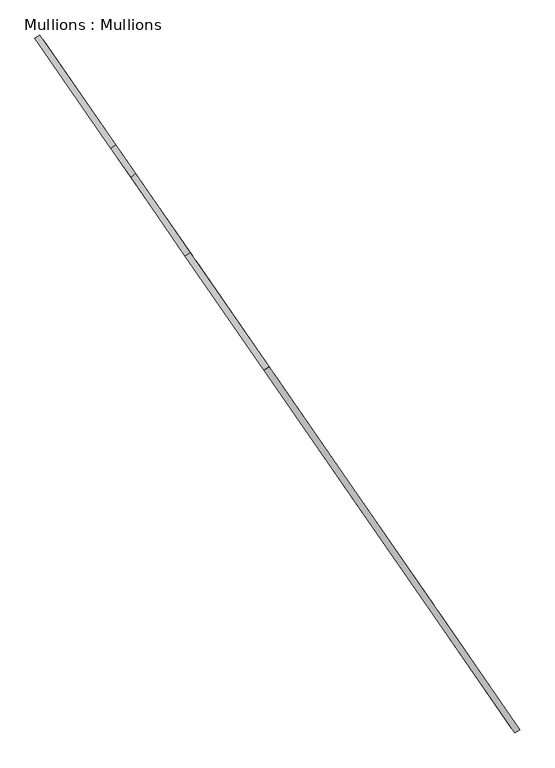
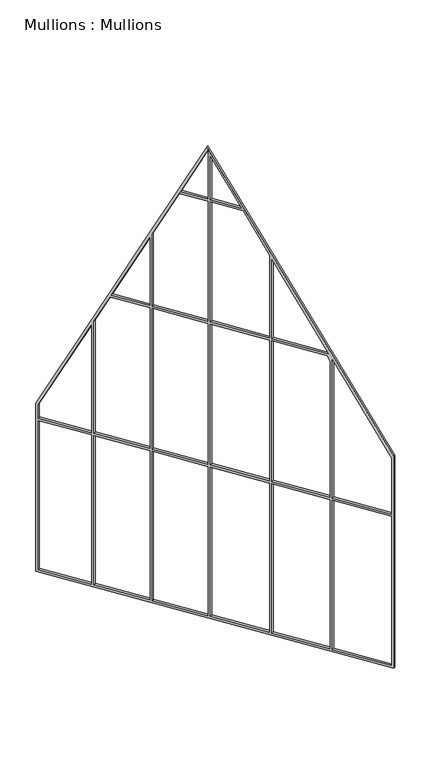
"""IFC4 building model written with IfcOpenShell, lengths in millimetres: furniture geometry, Mullions : Mullions."""

from ifc_helpers import new_model, si_unit, frame, origin, place, context, project, spatial, polyline, outline, extrude, source, transform, mapped, element, save


def mullions_mullions_dccb908f(model_context):
    return source(origin(), model_context, "Body", "SweptSolid", [
        extrude(outline(polyline([(2556.5951178, 0.0), (4303.3769749, -1e-07), (4949.545418, 0.0), (7389.5346382, -1e-07), (10629.6879913, -1660.999191), (7420.3534145, -7921.5297484), (3329.6703184, -5824.5236587), (21.5789264, 0.0), (2556.5951178, 0.0)]), holes=[polyline([(3396.8296492, -5802.7645841), (4476.0115446, -6355.9853917), (5002.7634983, -5328.4369626), (2334.3445073, -3960.5258479), (3396.8296492, -5802.7645841)]), polyline([(4520.5058625, -6378.7945054), (7398.6682102, -7854.2263167), (7925.420164, -6826.6778876), (5047.2578163, -5351.2460763), (4520.5058625, -6378.7945054)]), polyline([(7639.7278941, -184.4434703), (7377.4655984, -50.0000001), (5086.5952363, -50.0), (7162.9925788, -1114.4231708), (7639.7278941, -184.4434703)]), polyline([(10562.3845597, -1682.6843953), (7684.222212, -207.252584), (7207.4868968, -1137.2322845), (10085.6492445, -2612.6640958), (10562.3845597, -1682.6843953)]), polyline([(4225.0567523, -50.0), (2580.9530086, -50.0), (3882.9150364, -717.4245442), (4225.0567523, -50.0)]), polyline([(4976.9899251, -50.0), (4281.2437018, -50.0000001), (3927.4093544, -740.2336579), (6641.5627516, -2131.5895924), (7140.1834651, -1158.9174888), (4976.9899251, -50.0)]), polyline([(1214.2921207, -1993.2586119), (2809.6432303, -2811.0831447), (3338.6760954, -1779.0852838), (1024.0235271, -592.5253824), (733.4028219, -1159.446581), (1214.2921207, -1993.2586119)]), polyline([(6141.8181286, -3216.0594457), (5612.7852634, -4248.0573066), (8490.9476111, -5723.4891179), (9019.9804762, -4691.491257), (6141.8181286, -3216.0594457)]), polyline([(6686.0570695, -2154.3987061), (9564.2194172, -3629.8305174), (10062.8401308, -2657.1584138), (7184.6777831, -1181.7266025), (6686.0570695, -2154.3987061)]), polyline([(6663.2479559, -2198.8930241), (6164.6272423, -3171.5651277), (9042.7895899, -4646.996939), (9541.4103035, -3674.3248354), (6663.2479559, -2198.8930241)]), polyline([(5589.9761498, -4292.5516245), (5070.06693, -5306.7517583), (7948.2292777, -6782.1835696), (8468.1384974, -5767.9834358), (5589.9761498, -4292.5516245)]), polyline([(6120.1329243, -3148.756014), (6618.7536379, -2176.0839104), (3904.6002407, -784.7279758), (3405.9795271, -1757.4000795), (6120.1329243, -3148.756014)]), polyline([(5568.2909454, -4225.2481929), (6097.3238106, -3193.250332), (3383.1704134, -1801.8943975), (2854.1375483, -2833.8922583), (5568.2909454, -4225.2481929)]), polyline([(5025.572612, -5283.9426446), (5545.4818318, -4269.7425109), (2831.3284346, -2878.3865763), (2340.3051575, -3836.2381673), (2399.6273838, -3937.8048468), (5025.572612, -5283.9426446)]), polyline([(1002.3383228, -525.2219507), (1245.9512601, -50.0), (75.3107809, -50.0000001), (1002.3383228, -525.2219507)]), polyline([(2471.3476976, -50.0), (1302.1382096, -50.0), (1046.8326408, -548.0310644), (3361.4852091, -1734.5909658), (3860.1059227, -761.9188622), (2471.3476976, -50.0)]), polyline([(1260.2992483, -2073.0301864), (2280.8647892, -3842.584694), (2786.8341166, -2855.5774626), (1260.2992483, -2073.0301864)]), polyline([(147.2062659, -143.0427182), (703.6561265, -1107.868905), (979.5292091, -569.7162687), (147.2062659, -143.0427182)])]), frame((-11064.5973572, 7427.6305356, 10516.9327391), z_axis=(0.8223851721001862, 0.5689311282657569, 0.0), x_axis=(-0.25953629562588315, 0.37515753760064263, -0.8898863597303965)), (0.0, 0.0, 1.0), 50.0),
    ])


if __name__ == "__main__":
    model = new_model("IFC4")
    model_context = context("Model", 3, world=origin())
    ifc_project = project(units=[si_unit("LENGTHUNIT", "METRE", prefix="MILLI")], contexts=[model_context])
    site = spatial("IfcSite", under=ifc_project)
    building = spatial("IfcBuilding", under=site)
    placement = place(None, origin())
    mullions_mullions_shape = mullions_mullions_dccb908f(model_context)
    element("IfcFurniture", 1, ObjectType="Mullions : Mullions", at=placement, inside=building, context=model_context, shape_type="MappedRepresentation", body=[
        mapped(mullions_mullions_shape, transform((0.0, 0.0, 0.0), x_axis=(1.0, 0.0, 0.0), y_axis=(0.0, 1.0, 0.0), z_axis=(0.0, 0.0, 1.0))),
    ])
    save(model, "model.ifc")
